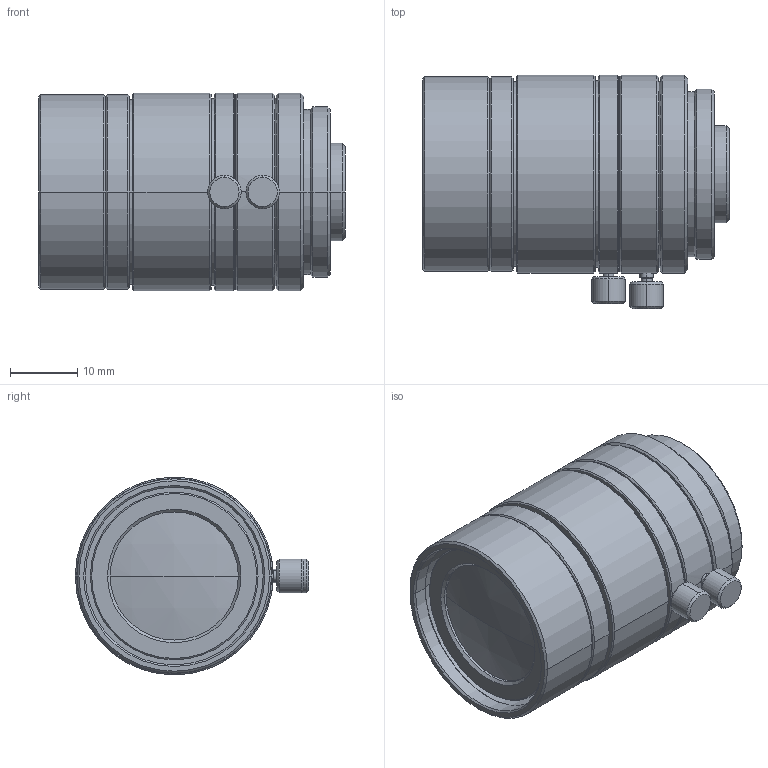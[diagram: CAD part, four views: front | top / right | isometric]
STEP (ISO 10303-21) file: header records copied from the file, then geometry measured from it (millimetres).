
FILE_DESCRIPTION (( 'STEP AP203' ), '1' );
FILE_NAME ('VS-1618VM.STEP', '2016-05-10T00:04:12', ( '' ), ( '' ), 'SwSTEP 2.0', 'SolidWorks 2016', '' );
FILE_SCHEMA (( 'CONFIG_CONTROL_DESIGN' ));
Length unit declared in the file: millimetre
Products named in the file (1): VS-1618VM
Bounding box: 45.73 x 34.8 x 29.5 mm (x, y, z)
Volume: 26756.5 mm3; surface area: 8015 mm2
Topology: 1 solids, 1 shells, 141 faces, 286 edges, 168 vertices
Faces by surface type: cone 64, cylinder 50, plane 23, sphere 4
Entity records: 3807 total; most frequent: DIRECTION 724, CARTESIAN_POINT 664, ORIENTED_EDGE 572, AXIS2_PLACEMENT_3D 304, EDGE_CURVE 286, VERTEX_POINT 168, EDGE_LOOP 162, CIRCLE 162
